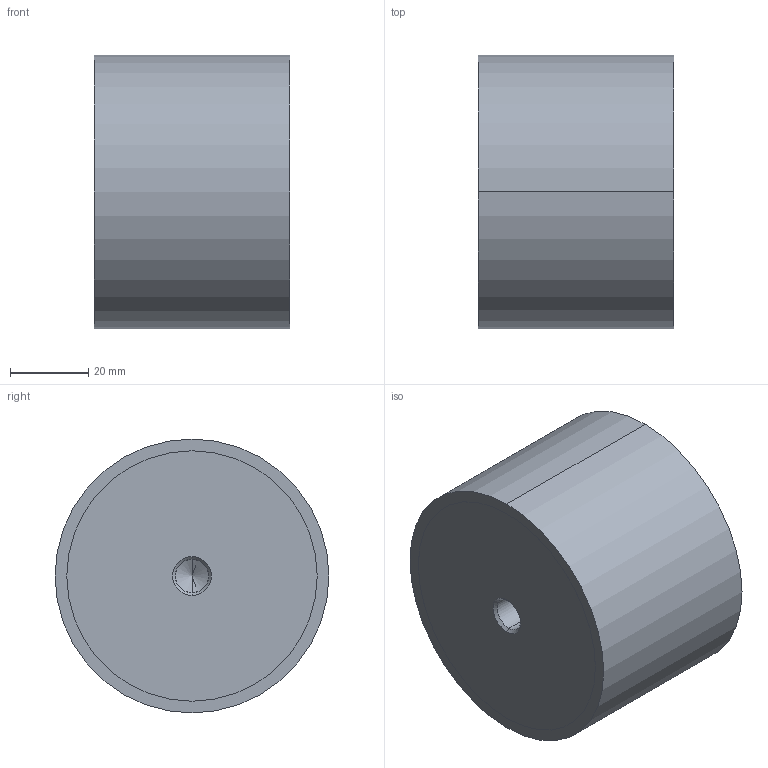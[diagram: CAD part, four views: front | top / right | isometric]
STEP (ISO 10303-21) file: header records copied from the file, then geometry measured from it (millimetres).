
FILE_DESCRIPTION (( 'STEP AP214' ), '1' );
FILE_NAME ('351-70-50-M10-EE-70.step', '2025-07-23T09:40:52', ( '' ), ( '' ), 'SwSTEP 2.0', 'SolidWorks 2022', '' );
FILE_SCHEMA (( 'AUTOMOTIVE_DESIGN' ));
Length unit declared in the file: millimetre
Products named in the file (1): 351-70-50-M10-EE-70
Bounding box: 50 x 70 x 70 mm (x, y, z)
Volume: 190983.8 mm3; surface area: 19288.6 mm2
Topology: 1 solids, 1 shells, 28 faces, 58 edges, 34 vertices
Faces by surface type: cylinder 14, cone 8, plane 6
Entity records: 844 total; most frequent: DIRECTION 144, CARTESIAN_POINT 117, ORIENTED_EDGE 108, AXIS2_PLACEMENT_3D 61, EDGE_CURVE 54, EDGE_LOOP 34, VERTEX_POINT 34, CIRCLE 32
